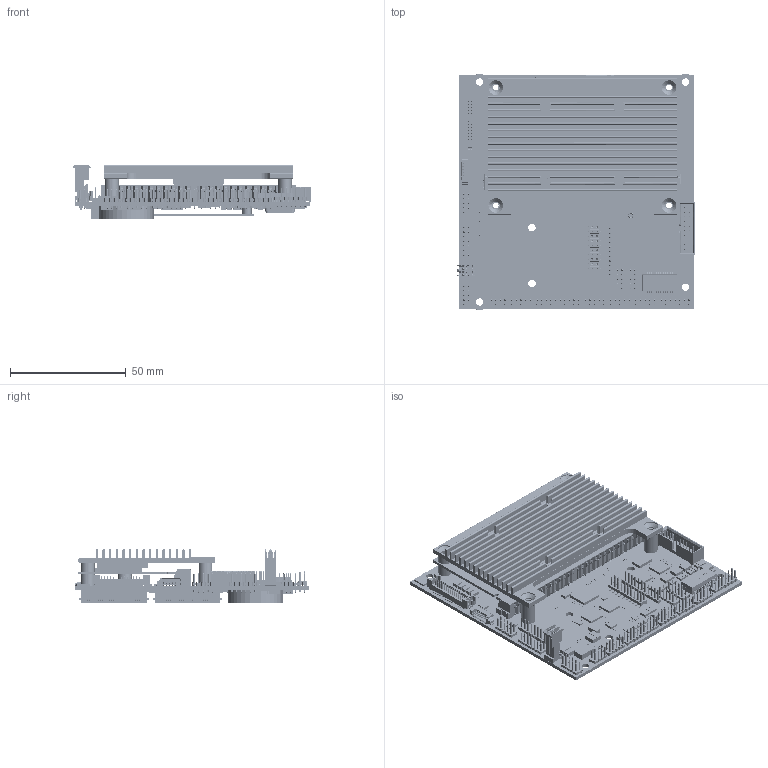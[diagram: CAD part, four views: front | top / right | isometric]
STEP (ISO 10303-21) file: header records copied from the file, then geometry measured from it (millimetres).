
FILE_DESCRIPTION((''),'2;1');
FILE_NAME('7140780-A_EAGLET-BB_ASM','2017-08-30T',('user'),(''),'PRO/ENGINEER BY PARAMETRIC TECHNOLOGY CORPORATION, 2012130','PRO/ENGINEER BY PARAMETRIC TECHNOLOGY CORPORATION, 2012130','');
FILE_SCHEMA(('CONFIG_CONTROL_DESIGN'));
Products named in the file (95): 7140780-A_EAGLET-BB; CAP1206; LED1_6SQ-HT0_7_P4; SOT_533_H_6_P5; SON_004_0185X0125_004_8P; PG-TDSON-9; TP_HOLE_D90MM; TP_SMD_CIR_30; RES2512; CAP_TANTD; VQFN_4X3-H1_P20_EP; DOIC_0230X0010_0031_8P; BATT_PANASONIC_BR_2330A; SOT_1P9_2_1P1_3P; DIO_SMB; BGA_4P_P4MM_P918MMSQ_P5; SOD323-H1_2_P2; SOP_4X5_H1_7_P8_EP; ABM3C_CRY_4L; TDK_ACM2012-900-2P-T002; PSOP95P_50X62-5P; DFN_05_2X2_8P; FUSEM_1P8X01_P75; SLP2510P8_0260X0110_8P; SON40P210X250X50-13N; LTST-C190GKT; TSSOP_65P640X120-24; CAP0805; SOT-23_3L; CAP0603; RES0402; CAP0402; DLW21SN900HQ2L; SC70-6-43M; SOP65P780X200-28N; FB0603; TSSOP_0P65_28L; QFN0P5P_4P83X4P83X1_32P; QFN50P_36P; 7140780-A_EAGLET-BB_28APR17_TOP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
Assembly tree (690 placements, depth 4):
  7140780-A_EAGLET-BB_ASM
    7140780-A_EAGLET-BB
    CAP1206  x19
    LED1_6SQ-HT0_7_P4
    SOT_533_H_6_P5  x7
    SON_004_0185X0125_004_8P  x2
    PG-TDSON-9  x2
    TP_HOLE_D90MM
    TP_SMD_CIR_30  x4
    RES2512
    CAP_TANTD  x2
    VQFN_4X3-H1_P20_EP
    DOIC_0230X0010_0031_8P  x2
    BATT_PANASONIC_BR_2330A
    SOT_1P9_2_1P1_3P
    DIO_SMB
    BGA_4P_P4MM_P918MMSQ_P5  x2
    SOD323-H1_2_P2
    SOP_4X5_H1_7_P8_EP  x2
    ABM3C_CRY_4L
    TDK_ACM2012-900-2P-T002  x7
    PSOP95P_50X62-5P  x6
    DFN_05_2X2_8P  x2
    FUSEM_1P8X01_P75  x2
    SLP2510P8_0260X0110_8P  x10
    SON40P210X250X50-13N
    LTST-C190GKT  x6
    TSSOP_65P640X120-24  x2
    CAP0805  x2
    SOT-23_3L  x2
    CAP0603  x29
    RES0402  x280
    CAP0402  x163
    DLW21SN900HQ2L  x10
    SC70-6-43M
    SOP65P780X200-28N
    FB0603  x19
    TSSOP_0P65_28L
    QFN0P5P_4P83X4P83X1_32P  x4
    QFN50P_36P
    7140780-A_EAGLET-BB_28APR17_ASM
      7140780-A_EAGLET-BB_28APR17_TOP
      7140780-A_EAGLET-BB_28APR17_BOT
      C-2174803-2-G-3D
      532610671
      DF13A-30DP-1_25V_X_8A_S_-315630_ASM
        DF13A-30DP-1_25V_X_8A_S_-315300
      1140084168-REVB_SD_CARD_CONNECT
      WUIR-19A1G4BU3N_ASM
        MSBR-20-1
        MSBR-19-1
        MSBR-18-1
        MSBR-17-1
        MSBR-16-1
        MSBR-15-1
        MSBR-14-1
        MSBR-13-1
        MSBR-12-1
        MSBR-11-1
        MSBR-10-1
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Bounding box: 103.22 x 102.31 x 23.4 mm (x, y, z)
Volume: 85145.2 mm3; surface area: 127396.6 mm2
Topology: 699 solids, 701 shells, 35515 faces, 96565 edges, 62953 vertices
Faces by surface type: plane 26185, cylinder 8050, cone 1159, extrusion 43, bspline 38, torus 36, sphere 4
Entity records: 897468 total; most frequent: CARTESIAN_POINT 173633, ORIENTED_EDGE 155380, DIRECTION 142695, EDGE_CURVE 77752, VECTOR 60903, LINE 60860, VERTEX_POINT 50590, AXIS2_PLACEMENT_3D 40896
